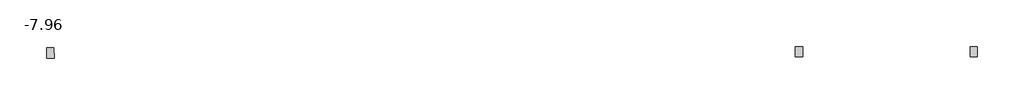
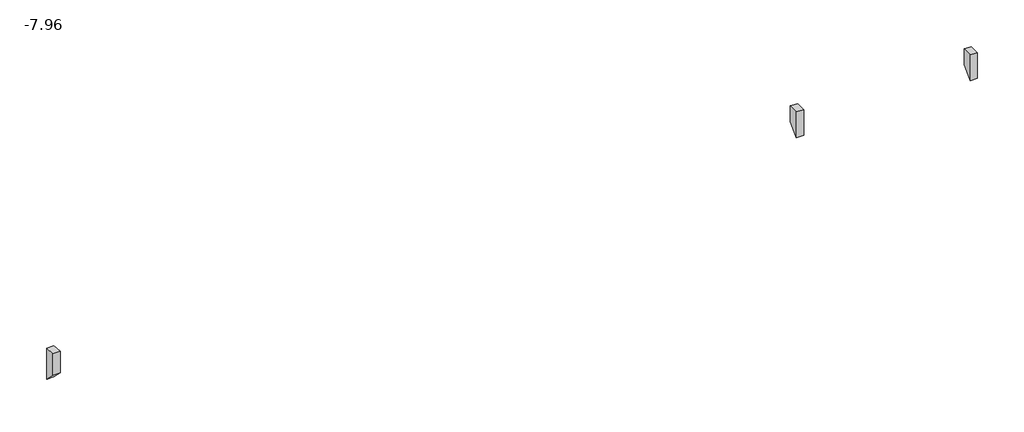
# One storey, incomplete: 3 beams.
"""IFC4 building model written with IfcOpenShell, lengths in millimetres."""

from ifc_helpers import new_model, si_unit, origin, place, context, project, spatial, transform, mapped, element, save
from components import beam_156a2913, beam_6b7efa57

model = new_model("IFC4")

# Units and contexts
model_context = context("Model", 3, world=origin())
ifc_project = project(units=[si_unit("LENGTHUNIT", "METRE", prefix="MILLI")], contexts=[model_context])

# Site, building, storey
site = spatial("IfcSite", under=ifc_project)
building = spatial("IfcBuilding", under=site)
storey = spatial("IfcBuildingStorey", under=building, Name="-7.96", Elevation=-935.105481)

# Beams
placement = place(None, origin())
beam_shape = beam_156a2913(model_context)
element("IfcBeam", 1, ObjectType="appoggiTravi9 : appoggiTravi", at=placement, inside=storey, context=model_context, shape_type="MappedRepresentation", body=[
    mapped(beam_shape, transform((0.0, 0.0, 0.0), x_axis=(1.0, 0.0, 0.0), y_axis=(0.0, 1.0, 0.0), z_axis=(0.0, 0.0, 1.0))),
])
element("IfcBeam", 2, ObjectType="appoggiTravi2 : appoggiTravi", at=placement, inside=storey, context=model_context, shape_type="MappedRepresentation", body=[
    mapped(beam_shape, transform((-4840.0026136, 0.0, 14.9873257), x_axis=(1.0, 0.0, 0.0), y_axis=(0.0, 1.0, 0.0), z_axis=(0.0, 0.0, 1.0))),
])
beam_2_shape = beam_6b7efa57(model_context)
element("IfcBeam", 3, ObjectType="appoggiTravi10 : appoggiTravi", at=placement, inside=storey, context=model_context, shape_type="MappedRepresentation", body=[
    mapped(beam_2_shape, transform((-21561.3721241, 6542.0977566, 0.0), x_axis=(0.9995137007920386, -0.031182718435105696, 0.0), y_axis=(0.031182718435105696, 0.9995137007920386, 0.0), z_axis=(0.0, 0.0, 1.0))),
])

save(model, "model.ifc")
